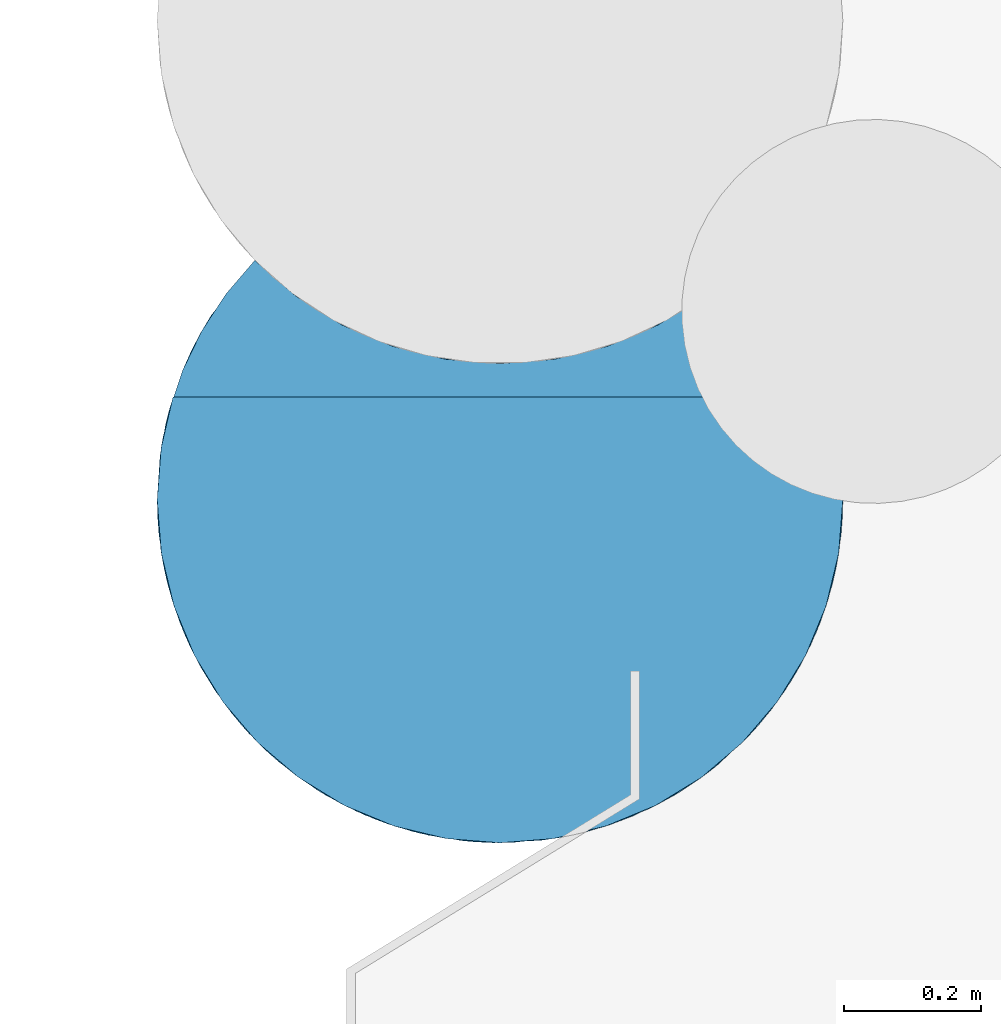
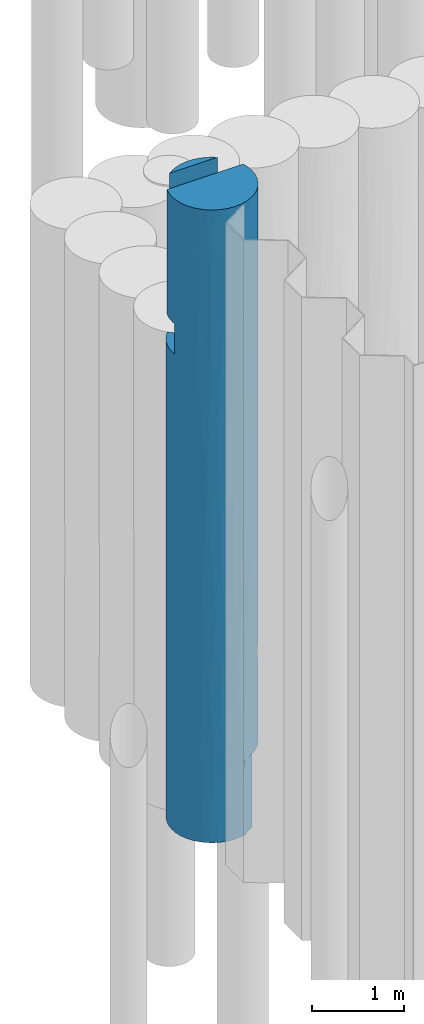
# One storey, part 75 of 104: 1 pile.
"""IFC2X3 building model written with IfcOpenShell, lengths in millimetres."""

from ifc_helpers import new_model, entity, si_unit, converted_unit, derived_unit, direction, frame, origin, place, context, subcontext, project, spatial, faceted_brep, source, transform, mapped, material, element, save


model = new_model("IFC2X3")

# Units and contexts
model_context = context("Model", 3, precision=0.01, world=origin(), true_north=direction((6.12303176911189e-17, 1.0)))
body_context = subcontext(model_context, "Body", "Model", "MODEL_VIEW")
ifc_project = project(units=[si_unit("LENGTHUNIT", "METRE", prefix="MILLI"), si_unit("AREAUNIT", "SQUARE_METRE", prefix="MILLI"), si_unit("VOLUMEUNIT", "CUBIC_METRE"), converted_unit("PLANEANGLEUNIT", "DEGREE", entity("IfcRatioMeasure", 0.0174532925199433), si_unit("PLANEANGLEUNIT", "RADIAN"), dimensions=[0, 0, 0, 0, 0, 0, 0]), si_unit("MASSUNIT", "GRAM", prefix="KILO"), derived_unit("MASSDENSITYUNIT", [(si_unit("MASSUNIT", "GRAM", prefix="KILO"), 1), (si_unit("LENGTHUNIT", "METRE"), -3)]), derived_unit("MOMENTOFINERTIAUNIT", [(si_unit("LENGTHUNIT", "METRE"), 4)]), si_unit("TIMEUNIT", "SECOND"), si_unit("FREQUENCYUNIT", "HERTZ"), si_unit("THERMODYNAMICTEMPERATUREUNIT", "DEGREE_CELSIUS"), derived_unit("THERMALTRANSMITTANCEUNIT", [(si_unit("MASSUNIT", "GRAM", prefix="KILO"), 1), (si_unit("THERMODYNAMICTEMPERATUREUNIT", "KELVIN"), -1), (si_unit("TIMEUNIT", "SECOND"), -3)]), derived_unit("VOLUMETRICFLOWRATEUNIT", [(si_unit("LENGTHUNIT", "METRE"), 3), (si_unit("TIMEUNIT", "SECOND"), -1)]), si_unit("ELECTRICCURRENTUNIT", "AMPERE"), si_unit("ELECTRICVOLTAGEUNIT", "VOLT"), si_unit("POWERUNIT", "WATT"), si_unit("FORCEUNIT", "NEWTON", prefix="KILO"), si_unit("ILLUMINANCEUNIT", "LUX"), si_unit("LUMINOUSFLUXUNIT", "LUMEN"), si_unit("LUMINOUSINTENSITYUNIT", "CANDELA"), derived_unit("USERDEFINED", [(si_unit("MASSUNIT", "GRAM", prefix="KILO"), -1), (si_unit("LENGTHUNIT", "METRE"), -2), (si_unit("TIMEUNIT", "SECOND"), 3), (si_unit("LUMINOUSFLUXUNIT", "LUMEN"), 1)]), derived_unit("LINEARVELOCITYUNIT", [(si_unit("LENGTHUNIT", "METRE"), 1), (si_unit("TIMEUNIT", "SECOND"), -1)]), si_unit("PRESSUREUNIT", "PASCAL"), derived_unit("USERDEFINED", [(si_unit("LENGTHUNIT", "METRE"), -2), (si_unit("MASSUNIT", "GRAM", prefix="KILO"), 1), (si_unit("TIMEUNIT", "SECOND"), -2)]), derived_unit("LINEARFORCEUNIT", [(si_unit("MASSUNIT", "GRAM", prefix="KILO"), 1), (si_unit("LENGTHUNIT", "METRE"), 1), (si_unit("TIMEUNIT", "SECOND"), -2), (si_unit("LENGTHUNIT", "METRE"), -1)]), derived_unit("PLANARFORCEUNIT", [(si_unit("MASSUNIT", "GRAM", prefix="KILO"), 1), (si_unit("LENGTHUNIT", "METRE"), 1), (si_unit("TIMEUNIT", "SECOND"), -2), (si_unit("LENGTHUNIT", "METRE"), -2)])], contexts=[model_context])

# Site, building, storey
site_placement = place(None, origin())
site = spatial("IfcSite", under=ifc_project, at=site_placement, Name="Theater aan de Parade", CompositionType="ELEMENT")
building_placement = place(site_placement, origin())
building = spatial("IfcBuilding", under=site, at=building_placement, Name="Theater aan de Parade", CompositionType="ELEMENT")
storey_placement = place(building_placement, frame((0.0, 0.0, -5520.0)))
storey = spatial("IfcBuildingStorey", under=building, at=storey_placement, Name="-2 kelder", CompositionType="ELEMENT", Elevation=-5520.0)

# Pile
ifc_material = material(Name="00_PBT_MAT_grout")
shared_shape = source(origin(), body_context, "Body", "Brep", [
    faceted_brep([(704.802640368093, 743.726935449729, 0.0), (771.595272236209, 779.738783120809, 0.0), (771.5952722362, 106.344045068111, 0.0), (626.943620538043, 17.5624308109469, 0.0), (608.83598038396, 13.2312374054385, 0.0), (590.562933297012, 9.58069431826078, 0.0), (518.241173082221, 1.87243507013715, 0.0), (445.455272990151, 4.75696807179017, 0.0), (373.860306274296, 18.1867716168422, 0.0), (304.975749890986, 41.877137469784, 0.0), (240.263659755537, 75.3256529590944, 0.0), (181.097663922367, 117.822835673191, 0.0), (128.733825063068, 168.467156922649, 0.0), (84.2839898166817, 226.184136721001, 0.0), (48.6921883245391, 289.749109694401, 0.0), (22.7146008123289, 357.813136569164, 0.0), (6.9036085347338, 428.930577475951, 0.0), (1.5952722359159, 501.595272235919, 0.0), (5.75265408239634, 565.938865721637, 0.0), (18.1489453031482, 629.186999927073, 0.0), (38.5774264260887, 690.313248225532, 0.0), (66.6968056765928, 748.300204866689, 0.0), (102.040326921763, 802.18776328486, 0.0), (144.02271852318, 851.083281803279, 0.0), (201.036539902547, 800.990950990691, 0.0), (264.971411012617, 760.106595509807, 0.0), (334.356633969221, 729.369383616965, 0.0), (407.59286134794, 709.487238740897, 0.0), (482.993084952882, 700.917452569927, 0.0), (558.820628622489, 703.856827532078, 0.0), (633.329113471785, 718.237179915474, 0.0), (908.774992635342, 791.775690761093, 1000.0), (929.992577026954, 759.42418692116, 2000.56039846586), (948.645252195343, 725.529002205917, 1000.0), (948.642496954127, 725.534502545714, 6320.0), (929.988974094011, 759.430173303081, 5337.69366129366), (908.770453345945, 791.78206016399, 6320.0), (988.177736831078, 616.649629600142, 2000.56039591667), (977.825185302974, 653.92737620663, 1000.0), (964.621338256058, 690.293078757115, 2789.10313193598), (949.675045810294, 723.461259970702, 3680.77121197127), (990.000111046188, 608.649993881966, 3592.57158734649), (1001.59527223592, 501.595272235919, 2561.53772653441), (988.176972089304, 616.652863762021, 5337.693401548), (964.619366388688, 690.297917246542, 4572.45729139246), (995.617010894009, 578.683025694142, 1000.0), (995.61664895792, 578.685345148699, 6320.0), (1001.59527223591, 501.595272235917, 6320.0), (1001.59527223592, 501.595272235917, 5539.23113673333), (918.264454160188, 777.976879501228, 4437.20873764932), (919.26592797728, 776.461100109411, 2961.57830751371), (859.16782594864, 851.083281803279, 3196.92464659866), (859.16782594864, 851.083281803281, 4758.4623232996), (977.823876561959, 653.931467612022, 6320.0), (992.007964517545, 599.039570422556, 4470.66114772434), (859.167825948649, 851.083281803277, 1000.0), (859.167825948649, 851.083281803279, 1780.76883835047), (1001.59527223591, 501.595272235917, 1000.0), (859.16782594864, 851.083281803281, 6320.0), (1001.59527223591, 501.595272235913, 1780.75617157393), (859.167825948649, 851.083281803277, 2561.53770625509), (859.16782594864, 851.083281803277, 5539.23114687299), (1001.59527223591, 501.595272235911, 4758.4253260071), (1001.59527223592, 501.595272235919, 4123.07545306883), (859.167825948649, 851.083281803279, 4123.07541251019), (1001.59527223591, 501.595272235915, 3196.91298285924), (87.2119047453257, 221.798158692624, 1074.14952803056), (34.4620797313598, 323.307357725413, 1289.47809439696), (234.174449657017, 79.1191147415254, 2085.23353863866), (272.009751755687, 57.4213324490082, 1089.56156988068), (338.986026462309, 28.7758212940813, 2011.80378101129), (992.566897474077, 407.007412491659, 5349.34794932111), (153.992184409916, 142.190078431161, 1565.30654089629), (8.46799480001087, 418.978759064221, 964.254288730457), (121.392289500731, 176.871247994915, 7239.91024094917), (240.345990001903, 75.275189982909, 6229.29592545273), (240.345989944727, 75.2751900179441, 7330.05940815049), (136.182064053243, 160.313589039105, 5995.28653066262), (63.1952671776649, 261.16766241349, 6520.0), (962.109381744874, 306.847345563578, 4919.24771129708), (989.939334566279, 394.263651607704, 4322.52056759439), (16.3033392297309, 381.213630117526, 5503.02211989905), (49.4610970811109, 288.112983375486, 5642.72066971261), (23.7115823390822, 354.533452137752, 6520.0), (450.575775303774, 4.20507235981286, 2190.30203297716), (376.205184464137, 17.5732418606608, 1047.84357187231), (481.795623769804, 1.9874521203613, 1350.00306281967), (161.817647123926, 134.783105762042, 2494.41260947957), (11.5355328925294, 402.391180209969, 4591.98521696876), (1.5952722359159, 501.595272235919, 3196.92603152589), (17.5198060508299, 376.411634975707, 3679.68271341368), (2.22223568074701, 476.563884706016, 6320.0), (1.59527223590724, 501.595272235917, 4758.46301576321), (315.94394644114, 37.3393242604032, 5267.58505774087), (338.391187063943, 28.9808135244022, 6241.33336444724), (1.5952722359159, 501.595272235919, 6320.0), (1.5952722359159, 501.595272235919, 7500.76720820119), (1.5952722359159, 501.595272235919, 6720.0), (2.22223568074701, 476.563884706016, 6720.0), (992.418761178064, 406.241705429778, 1860.0874048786), (985.343244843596, 375.152008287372, 3304.65837892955), (347.086775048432, 26.0670140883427, 8370.0), (274.600022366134, 56.0920101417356, 8370.0), (65.3288546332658, 257.317535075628, 2441.03183575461), (980.321526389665, 357.299833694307, 1000.0), (996.248245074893, 428.667661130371, 1000.0), (937.399859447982, 256.494554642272, 3333.63587936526), (968.488561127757, 322.680049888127, 2239.4937811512), (291.747757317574, 47.7626814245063, 3031.55350809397), (384.364827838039, 15.5324955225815, 2828.49667109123), (338.986026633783, 28.7758212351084, 4051.30323495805), (7.75110193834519, 423.378039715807, 8370.0), (1.5952722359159, 501.595272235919, 8370.0), (1.59527223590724, 501.595272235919, 7544.9990945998), (881.798255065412, 176.871248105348, 7239.91024302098), (906.103769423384, 207.702646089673, 8370.0), (855.148662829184, 148.041881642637, 8370.0), (462.365724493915, 3.13660535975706, 6069.66955095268), (618.317954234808, 15.4103120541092, 6918.09545850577), (502.35176156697, 1.59584451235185, 7095.91779178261), (10.8990141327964, 405.589114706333, 7497.97575265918), (4.10155368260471, 451.595272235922, 6720.0), (791.845564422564, 94.4653569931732, 1912.39907563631), (873.552644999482, 167.458005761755, 1000.0), (896.990121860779, 195.551300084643, 2239.49378124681), (1000.96830879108, 476.563884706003, 6720.0), (1001.59527223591, 501.595272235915, 6720.0), (1001.59527223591, 501.595272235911, 7500.76885295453), (39.6555060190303, 310.253555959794, 7429.60999617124), (4.10155368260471, 451.595272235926, 6320.0), (26.0670140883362, 347.086775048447, 8370.0), (762.844554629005, 75.2751900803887, 7482.49156448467), (656.103769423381, 26.0670140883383, 8370.0), (97.0867750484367, 207.702646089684, 8370.0), (14.4968547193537, 388.745231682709, 2426.220170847), (206.356215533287, 98.0684461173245, 4822.59500012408), (1000.96830879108, 476.563884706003, 6320.0), (56.0920101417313, 274.600022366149, 8370.0), (148.041881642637, 148.041881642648, 8370.0), (1.5952722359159, 501.595272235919, 1561.53698423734), (384.872590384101, 15.4103120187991, 7134.93144544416), (863.474829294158, 156.568916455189, 5933.32331231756), (939.995277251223, 261.167662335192, 6520.0), (423.378039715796, 7.75110193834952, 8370.0), (791.84556446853, 94.4653570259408, 2884.78687938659), (871.847752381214, 165.569825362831, 3214.28283635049), (626.943620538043, 17.562430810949, 1000.0), (601.666984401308, 11.7119673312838, 5532.80239810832), (762.844554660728, 75.2751900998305, 6524.43361572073), (696.201856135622, 41.0214155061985, 1000.0), (662.002163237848, 28.0241272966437, 2392.30890041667), (41.0811626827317, 306.847345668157, 4741.99727855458), (918.310577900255, 225.283213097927, 1000.0), (979.478962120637, 354.533452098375, 6520.0), (999.088990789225, 451.595272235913, 6320.0), (999.088990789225, 451.595272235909, 6720.0), (493.446967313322, 1.66167151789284, 4562.08179089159), (481.491381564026, 1.99960213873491, 3031.55350755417), (954.155758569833, 289.01821277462, 1000.0), (579.812504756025, 7.75110193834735, 8370.0), (924.815293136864, 235.353250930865, 5571.42904259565), (761.297824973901, 74.3312038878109, 1000.0), (795.487898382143, 97.0867750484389, 8370.0), (728.590522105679, 56.0920101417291, 8370.0), (397.166110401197, 12.6223178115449, 4783.5301607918), (963.535038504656, 310.253556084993, 7429.60999699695), (560.068158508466, 5.02612139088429, 2066.01268093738), (174.32796720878, 123.579252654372, 3415.94733301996), (207.702646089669, 97.0867750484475, 8370.0), (992.291530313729, 405.589114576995, 7497.9757528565), (882.62399935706, 177.840567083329, 4497.14356299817), (820.839247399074, 116.779362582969, 1000.0), (995.439442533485, 423.378039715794, 8370.0), (1001.59527223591, 501.595272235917, 7589.23114814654), (1001.59527223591, 501.595272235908, 8370.0), (977.123530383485, 347.086775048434, 8370.0), (501.595272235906, 1.5952722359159, 8370.0), (808.346579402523, 106.748928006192, 3957.6451857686), (719.126323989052, 51.3950484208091, 3574.86701921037), (947.098534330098, 274.600022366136, 8370.0), (66.9751266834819, 254.40035100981, 3654.14870837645), (613.555616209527, 14.2915872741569, 3712.99128149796), (729.359587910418, 56.4847056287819, 4677.33358139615), (814.837372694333, 111.878212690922, 4924.16455310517), (754.401318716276, 70.2148103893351, 5584.45243362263), (109.792098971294, 190.966436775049, 4678.9576494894), (247.891505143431, 70.7421666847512, 3857.704214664), (1.59527223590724, 501.595272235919, 3123.0891615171), (1.5952722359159, 501.595272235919, 2379.23150788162), (587.828380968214, 9.08755558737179, 2886.98487453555), (593.083444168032, 10.0366140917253, 4614.52723331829), (1.59527223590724, 501.595272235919, 3940.77619133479), (799.175517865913, 798.76786006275, 6320.0), (731.641359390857, 756.635712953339, 6320.0), (658.276930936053, 725.754634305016, 6320.0), (580.941574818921, 706.90727175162, 6320.0), (501.595272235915, 700.57129137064, 6320.0), (422.2489696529, 706.907271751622, 6320.0), (344.913613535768, 725.754634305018, 6320.0), (271.549185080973, 756.635712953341, 6320.0), (204.015026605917, 798.767860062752, 6320.0), (144.02271852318, 851.083281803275, 6320.0), (102.040327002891, 802.187763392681, 6320.0), (66.6968058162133, 748.300205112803, 6320.0), (38.5774265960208, 690.313248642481, 6320.0), (18.148945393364, 629.187000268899, 6320.0), (5.75265408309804, 565.93886572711, 6320.0), (220.350081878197, 787.169376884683, 2678.92468402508), (223.378564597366, 785.12518946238, 1507.16051942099), (144.022718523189, 851.083281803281, 1561.53400288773), (307.615898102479, 739.732922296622, 5301.12212151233), (299.080029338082, 743.419701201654, 2029.55112094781), (299.080029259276, 743.419701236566, 984.769917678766), (582.412405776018, 707.145926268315, 807.704993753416), (766.248188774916, 776.355740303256, 5294.91840717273), (619.98490609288, 714.789555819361, 5294.91840705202), (445.130157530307, 703.769831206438, 1376.03666731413), (461.795836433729, 702.157803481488, 4790.93249508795), (669.550133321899, 729.624198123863, 928.953564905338), (794.345888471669, 795.235533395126, 4485.91456197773), (227.462683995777, 782.419017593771, 4759.79633043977), (307.615898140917, 739.732922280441, 4218.47053966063), (144.02271852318, 851.083281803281, 4721.54510357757), (144.02271852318, 851.083281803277, 4758.45848624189), (596.348072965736, 709.631471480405, 1634.37445571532), (714.64002154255, 748.23078379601, 2070.55300751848), (817.402708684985, 812.930138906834, 1000.0), (307.867272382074, 739.627192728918, 3122.24562883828), (409.856195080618, 709.059397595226, 2493.47102692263), (695.574646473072, 739.732922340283, 4489.48354114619), (577.478668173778, 706.363126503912, 4197.33064161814), (218.842996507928, 788.198704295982, 3697.03808174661), (411.420851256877, 708.769935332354, 3672.63491086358), (771.595272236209, 779.738783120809, 1000.0), (795.338085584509, 795.953991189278, 2171.15327954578), (771.156307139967, 779.457472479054, 3658.36606943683), (666.872136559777, 728.677703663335, 3249.99850248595), (599.745528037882, 710.299400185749, 2568.64342589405), (507.930638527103, 700.61142984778, 2152.44955747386), (144.022718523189, 851.083281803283, 3123.06800577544), (520.962700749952, 700.94652946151, 3152.87208798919), (144.022718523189, 851.083281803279, 3196.92147949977), (144.022718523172, 851.083281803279, 2379.22698961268), (14.0000458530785, 612.27903440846, 1280.303246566), (15.3434311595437, 618.039022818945, 2342.3065612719), (20.2796024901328, 637.002901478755, 3728.53168274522), (80.3492264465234, 770.949627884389, 3851.86574302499), (51.7018985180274, 719.760237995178, 4864.61884691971), (51.7018983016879, 719.760237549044, 1455.38115677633), (13.781695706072, 611.312702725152, 5217.58184740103), (64.4154780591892, 744.234567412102, 2740.64449215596), (995.801231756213, 577.493029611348, 7241.82038755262), (978.564872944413, 651.595272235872, 7500.76885378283), (995.363391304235, 580.291171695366, 7793.60805296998), (999.014307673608, 552.332863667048, 8370.0), (991.316350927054, 602.457877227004, 8370.0), (999.014307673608, 552.332863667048, 6720.0), (991.316350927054, 602.457877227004, 6720.0), (978.564872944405, 651.59527223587, 8370.0), (978.564872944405, 651.59527223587, 6720.0), (771.595272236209, 106.344045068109, 1000.0), (24.6256715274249, 651.595272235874, 6720.0), (24.6256715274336, 651.595272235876, 7589.23220514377), (24.6256715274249, 651.595272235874, 8370.0), (7.3865373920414, 577.47495597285, 8370.0), (7.3865373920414, 577.47495597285, 6720.0), (10.0249412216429, 593.020704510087, 7253.63068789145), (7.19806964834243, 576.237124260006, 7785.31022059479)], [[[0, 1, 2, 3, 4, 5, 6, 7, 8, 9, 10, 11, 12, 13, 14, 15, 16, 17, 18, 19, 20, 21, 22, 23, 24, 25, 26, 27, 28, 29, 30]], [[31, 32, 33]], [[34, 35, 36]], [[37, 33, 32]], [[37, 38, 33]], [[39, 40, 41]], [[42, 37, 41]], [[35, 43, 44]], [[38, 37, 45]], [[46, 47, 48]], [[49, 40, 50]], [[51, 49, 50]], [[49, 52, 35]], [[46, 43, 53]], [[53, 43, 35]], [[54, 41, 44]], [[34, 53, 35]], [[31, 55, 56]], [[45, 37, 57]], [[41, 37, 39]], [[36, 35, 58]], [[37, 42, 59, 57]], [[39, 37, 32]], [[31, 56, 32]], [[50, 56, 60, 51]], [[49, 35, 44]], [[35, 52, 61, 58]], [[46, 48, 43]], [[54, 48, 62, 63]], [[40, 49, 44]], [[49, 51, 64, 52]], [[43, 54, 44]], [[40, 39, 50]], [[44, 41, 40]], [[41, 63, 65, 42]], [[39, 32, 50]], [[56, 50, 32]], [[48, 54, 43]], [[63, 41, 54]], [[66, 67, 14]], [[68, 69, 70]], [[71, 62, 48, 47]], [[11, 72, 12]], [[15, 67, 73]], [[74, 75, 76]], [[16, 73, 17]], [[66, 14, 13]], [[77, 74, 78]], [[79, 80, 71]], [[81, 82, 83]], [[11, 69, 72]], [[84, 85, 86]], [[72, 68, 87]], [[88, 89, 90]], [[7, 6, 86]], [[91, 92, 81]], [[93, 94, 75]], [[91, 95, 92]], [[96, 97, 98]], [[99, 65, 100]], [[76, 101, 102]], [[9, 8, 85]], [[67, 66, 103]], [[99, 104, 105]], [[100, 106, 107]], [[108, 109, 110]], [[111, 112, 113, 96]], [[114, 115, 116]], [[117, 118, 119]], [[120, 96, 121]], [[121, 96, 98]], [[122, 123, 124]], [[125, 126, 127]], [[120, 83, 128]], [[69, 68, 72]], [[129, 83, 121]], [[85, 7, 86]], [[74, 77, 75]], [[111, 120, 130]], [[131, 132, 118]], [[128, 74, 133]], [[134, 90, 89]], [[93, 75, 135]], [[15, 14, 67]], [[71, 47, 136]], [[128, 137, 130]], [[74, 138, 133]], [[74, 76, 138]], [[134, 139, 73]], [[76, 140, 101]], [[114, 141, 142]], [[101, 140, 143]], [[144, 124, 145]], [[6, 146, 86]], [[118, 147, 148]], [[146, 5, 4]], [[145, 124, 106]], [[15, 73, 16]], [[146, 4, 3]], [[146, 149, 150]], [[81, 151, 82]], [[122, 150, 149]], [[10, 9, 69]], [[128, 133, 137]], [[123, 152, 124]], [[153, 154, 155]], [[119, 143, 140]], [[124, 107, 106]], [[82, 77, 78]], [[156, 110, 157]], [[152, 158, 107, 124]], [[158, 104, 107]], [[81, 83, 129]], [[59, 99, 105]], [[107, 99, 100]], [[118, 132, 159]], [[160, 153, 142]], [[149, 161, 122]], [[120, 111, 96]], [[134, 67, 103]], [[71, 136, 154]], [[148, 131, 118]], [[131, 162, 163]], [[69, 11, 10]], [[160, 142, 141]], [[93, 164, 117]], [[114, 142, 165]], [[166, 146, 150]], [[116, 131, 114]], [[114, 165, 115]], [[109, 84, 157]], [[117, 119, 140]], [[167, 87, 108]], [[102, 168, 76]], [[155, 169, 153]], [[170, 79, 160]], [[161, 171, 122]], [[153, 79, 71]], [[172, 127, 173, 174]], [[105, 57, 59]], [[175, 165, 169]], [[125, 127, 155]], [[66, 12, 72]], [[169, 127, 172]], [[119, 159, 176]], [[144, 177, 178]], [[179, 165, 175]], [[70, 69, 85]], [[117, 156, 147]], [[146, 6, 5]], [[124, 144, 122]], [[127, 169, 155]], [[131, 116, 162]], [[141, 114, 148]], [[76, 168, 138]], [[76, 75, 94]], [[122, 171, 123]], [[150, 122, 144]], [[83, 78, 128]], [[74, 128, 78]], [[165, 179, 115]], [[142, 153, 165]], [[131, 163, 132]], [[114, 131, 148]], [[77, 135, 75]], [[90, 180, 151]], [[157, 84, 166]], [[157, 181, 156]], [[91, 81, 129]], [[88, 81, 92]], [[182, 183, 184]], [[170, 106, 79]], [[77, 82, 185]], [[151, 180, 185]], [[108, 186, 167]], [[135, 186, 93]], [[83, 120, 121]], [[130, 120, 128]], [[175, 169, 172]], [[153, 169, 165]], [[103, 180, 90]], [[134, 89, 187, 188, 139]], [[103, 90, 134]], [[88, 151, 81]], [[87, 180, 103]], [[185, 167, 135]], [[167, 185, 180]], [[77, 185, 135]], [[108, 68, 70]], [[68, 108, 87]], [[109, 108, 70]], [[108, 110, 186]], [[80, 65, 63, 62]], [[106, 100, 80]], [[166, 189, 157]], [[117, 147, 118]], [[178, 150, 144]], [[190, 182, 147]], [[190, 147, 156]], [[147, 182, 184]], [[9, 85, 69]], [[7, 85, 8]], [[88, 92, 191, 89]], [[90, 151, 88]], [[185, 82, 151]], [[83, 82, 78]], [[182, 177, 183]], [[145, 177, 144]], [[180, 87, 167]], [[103, 72, 87]], [[99, 59, 42, 65]], [[104, 99, 107]], [[159, 119, 118]], [[143, 119, 176]], [[164, 93, 110]], [[94, 117, 140]], [[93, 186, 110]], [[135, 167, 186]], [[70, 85, 84]], [[110, 109, 157]], [[70, 84, 109]], [[166, 84, 86]], [[146, 166, 86]], [[166, 150, 189]], [[178, 189, 150]], [[157, 189, 181]], [[106, 170, 145]], [[177, 145, 170]], [[183, 177, 170]], [[178, 182, 181]], [[182, 178, 177]], [[178, 181, 189]], [[170, 141, 183]], [[184, 141, 148]], [[141, 184, 183]], [[147, 184, 148]], [[117, 94, 93]], [[76, 94, 140]], [[12, 66, 13]], [[103, 66, 72]], [[134, 73, 67]], [[17, 73, 139]], [[153, 71, 154]], [[79, 106, 80]], [[65, 80, 100]], [[62, 71, 80]], [[170, 160, 141]], [[153, 160, 79]], [[156, 181, 190]], [[182, 190, 181]], [[110, 156, 164]], [[117, 164, 156]], [[47, 46, 53, 34, 36, 58, 192, 193, 194, 195, 196, 197, 198, 199, 200, 201, 202, 203, 204, 205, 206, 95, 91, 129, 154, 136]], [[155, 154, 129, 121]], [[207, 208, 209]], [[200, 199, 210]], [[211, 212, 208]], [[29, 28, 213]], [[212, 25, 24]], [[193, 214, 215, 194]], [[212, 211, 216]], [[216, 28, 27]], [[192, 58, 61]], [[210, 197, 217]], [[212, 24, 208]], [[30, 213, 218]], [[61, 219, 214]], [[197, 210, 198]], [[220, 210, 221]], [[200, 222, 223, 201]], [[196, 217, 197]], [[224, 225, 218]], [[199, 198, 210]], [[56, 55, 226]], [[216, 213, 28]], [[221, 210, 217]], [[227, 228, 211]], [[229, 230, 215]], [[231, 220, 221]], [[224, 218, 213]], [[220, 222, 200]], [[221, 217, 232]], [[193, 192, 214]], [[233, 1, 0]], [[209, 24, 23]], [[26, 25, 212]], [[226, 234, 56]], [[217, 196, 215]], [[0, 30, 218]], [[227, 231, 221]], [[229, 235, 236]], [[195, 194, 215]], [[27, 26, 212]], [[214, 229, 215]], [[234, 226, 233]], [[237, 236, 225]], [[216, 27, 212]], [[228, 238, 216]], [[231, 207, 239]], [[195, 215, 196]], [[230, 232, 217]], [[219, 235, 229]], [[214, 192, 61]], [[218, 233, 0]], [[233, 218, 225]], [[235, 219, 64]], [[230, 229, 236]], [[215, 230, 217]], [[236, 237, 240]], [[230, 236, 240]], [[225, 235, 234]], [[210, 220, 200]], [[231, 239, 241, 222]], [[220, 231, 222]], [[227, 207, 231]], [[216, 211, 228]], [[227, 221, 232]], [[224, 216, 238]], [[240, 228, 232]], [[227, 232, 228]], [[230, 240, 232]], [[207, 209, 242, 239]], [[207, 227, 211]], [[211, 208, 207]], [[209, 208, 24]], [[236, 235, 225]], [[235, 64, 51, 60]], [[224, 213, 216]], [[29, 213, 30]], [[224, 238, 237]], [[238, 228, 240]], [[60, 56, 234]], [[60, 234, 235]], [[225, 234, 233]], [[240, 237, 238]], [[224, 237, 225]], [[219, 61, 52, 64]], [[214, 219, 229]], [[243, 139, 244]], [[245, 187, 89, 191, 92]], [[246, 245, 247]], [[243, 18, 139]], [[248, 22, 21]], [[21, 20, 248]], [[22, 209, 23]], [[202, 201, 223]], [[206, 249, 95]], [[249, 245, 92]], [[248, 250, 242]], [[250, 246, 241]], [[204, 247, 249]], [[246, 223, 222, 241]], [[244, 139, 188, 187]], [[244, 250, 248]], [[202, 223, 247]], [[243, 244, 248]], [[203, 202, 247]], [[248, 209, 22]], [[249, 206, 205]], [[204, 203, 247]], [[243, 20, 19]], [[204, 249, 205]], [[187, 245, 244]], [[18, 17, 139]], [[245, 250, 244]], [[242, 209, 248]], [[245, 246, 250]], [[223, 246, 247]], [[20, 243, 248]], [[18, 243, 19]], [[245, 249, 247]], [[249, 92, 95]], [[250, 241, 239, 242]], [[251, 252, 253]], [[254, 253, 255]], [[251, 173, 127, 126]], [[256, 251, 126]], [[174, 173, 253]], [[257, 251, 256]], [[253, 254, 174]], [[258, 253, 252]], [[173, 251, 253]], [[259, 252, 251]], [[253, 258, 255]], [[251, 257, 259]], [[31, 33, 38, 45, 57, 105, 104, 158, 152, 123, 171, 161, 149, 146, 260, 233, 226, 55]], [[260, 2, 1, 233]], [[260, 146, 3, 2]], [[259, 261, 262, 263, 258, 252]], [[254, 255, 258, 263, 264, 112, 111, 130, 137, 133, 138, 168, 102, 101, 143, 176, 159, 132, 163, 162, 116, 115, 179, 175, 172, 174]], [[97, 265, 261, 259, 257, 256, 126, 125, 155, 121, 98]], [[266, 261, 265]], [[266, 265, 97]], [[112, 264, 267]], [[266, 97, 96, 113]], [[267, 266, 113]], [[112, 267, 113]], [[266, 267, 262]], [[267, 264, 263]], [[261, 266, 262]], [[263, 262, 267]]]),
    faceted_brep([(395.167368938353, 990.137083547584, 8370.0), (326.627812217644, 969.982278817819, 8370.0), (261.659786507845, 940.264809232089, 8370.0), (201.595272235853, 901.595272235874, 8370.0), (801.595272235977, 901.595272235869, 8370.0), (741.533492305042, 940.263313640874, 8370.0), (676.567541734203, 969.980482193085, 8370.0), (608.029772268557, 990.135646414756, 8370.0), (537.319141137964, 1000.31744458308, 8370.0), (465.878938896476, 1000.31798430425, 8370.0), (676.567541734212, 969.98048219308, 6720.0), (741.533492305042, 940.263313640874, 6720.0), (801.595272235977, 901.595272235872, 6720.0), (201.595272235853, 901.595272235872, 6720.0), (261.659786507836, 940.264809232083, 6720.0), (326.627812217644, 969.982278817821, 6720.0), (395.167368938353, 990.137083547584, 6720.0), (465.878938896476, 1000.31798430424, 6720.0), (537.319141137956, 1000.31744458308, 6720.0), (608.029772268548, 990.13564641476, 6720.0), (801.595272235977, 901.595272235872, 7589.23107777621), (201.595272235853, 901.595272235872, 7545.00083160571), (725.703030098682, 948.558036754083, 7565.0692702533), (642.659087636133, 981.283712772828, 7545.0), (501.599049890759, 1001.59527222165, 7545.0), (410.896914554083, 993.300273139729, 7545.0), (293.612350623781, 956.285391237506, 7545.0)], [[[0, 1, 2, 3, 4, 5, 6, 7, 8, 9]], [[10, 11, 12, 13, 14, 15, 16, 17, 18, 19]], [[13, 12, 20, 4, 3, 21]], [[22, 23, 6]], [[23, 10, 19]], [[5, 20, 22]], [[18, 24, 23]], [[23, 22, 10]], [[12, 11, 20]], [[5, 4, 20]], [[6, 23, 7]], [[6, 5, 22]], [[7, 23, 8]], [[23, 19, 18]], [[23, 24, 8]], [[24, 9, 8]], [[25, 0, 9]], [[26, 15, 14]], [[21, 14, 13]], [[3, 2, 21]], [[25, 16, 15]], [[26, 25, 15]], [[2, 26, 21]], [[24, 25, 9]], [[20, 11, 22]], [[1, 0, 25]], [[14, 21, 26]], [[1, 26, 2]], [[1, 25, 26]], [[17, 24, 18]], [[17, 25, 24]], [[16, 25, 17]], [[10, 22, 11]]]),
])
pile_placement = place(storey_placement, frame((73298.4047277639, 17203.4047277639, -3840.0)))
element("IfcPile", 1, at=pile_placement, inside=storey, material=ifc_material, Name="17_PBT_SFO_grondkering_rond:Ø1000 (grondkering)", ObjectType="17_PBT_SFO_grondkering_rond:Ø1000 (grondkering)", PredefinedType="NOTDEFINED", context=body_context, shape_type="MappedRepresentation", body=[
    mapped(shared_shape, transform((0.0, 0.0, 0.0), scale=1.0)),
])

save(model, "model.ifc")
